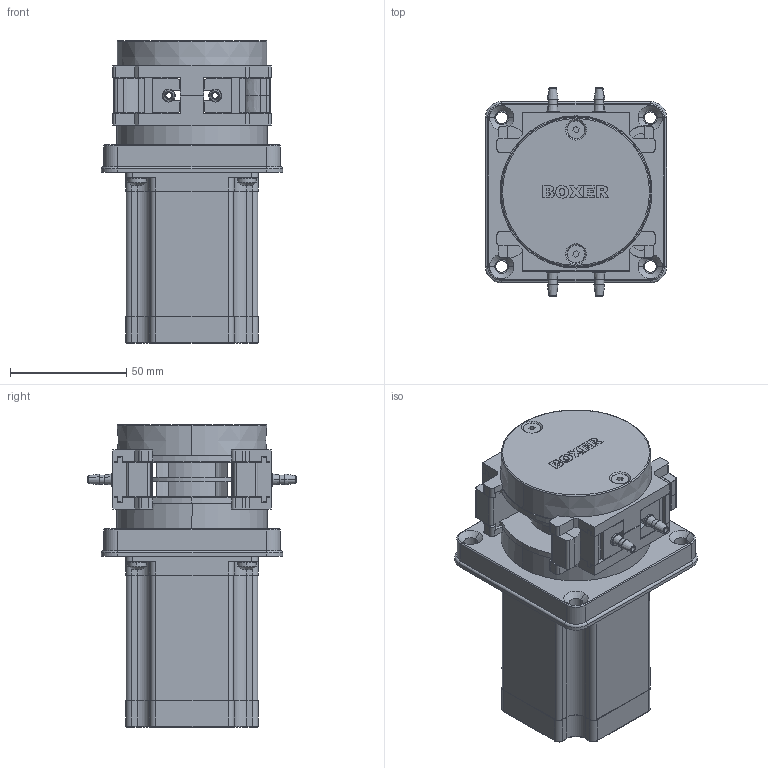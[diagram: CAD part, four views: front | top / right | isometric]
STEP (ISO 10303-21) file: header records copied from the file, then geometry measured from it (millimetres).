
FILE_DESCRIPTION (( 'STEP AP203' ), '1' );
FILE_NAME ('6341.100.STEP', '2019-02-25T14:10:49', ( '' ), ( '' ), 'SwSTEP 2.0', 'SolidWorks 2015', '' );
FILE_SCHEMA (( 'CONFIG_CONTROL_DESIGN' ));
Length unit declared in the file: millimetre
Products named in the file (1): 6341.100
Bounding box: 78 x 89.5 x 130.2 mm (x, y, z)
Surface area: 65680.9 mm2 (no closed solid volume)
Topology: 0 solids, 36 shells, 690 faces, 2404 edges, 1700 vertices
Faces by surface type: plane 378, cylinder 180, cone 60, torus 42, bspline 22, sphere 8
Entity records: 27291 total; most frequent: CARTESIAN_POINT 6413, DIRECTION 4455, ORIENTED_EDGE 3916, EDGE_CURVE 2404, VERTEX_POINT 1700, AXIS2_PLACEMENT_3D 1488, VECTOR 1479, LINE 1479
